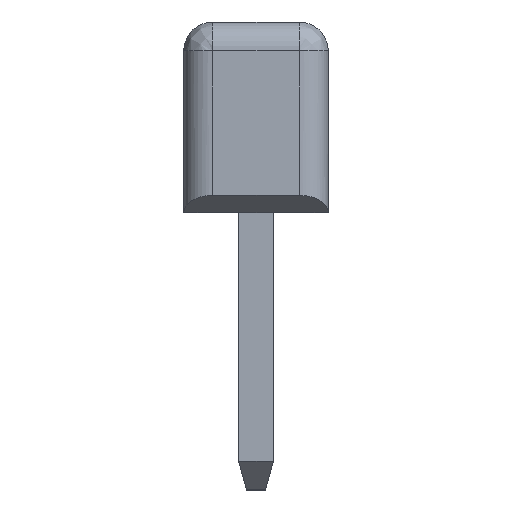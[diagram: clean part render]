
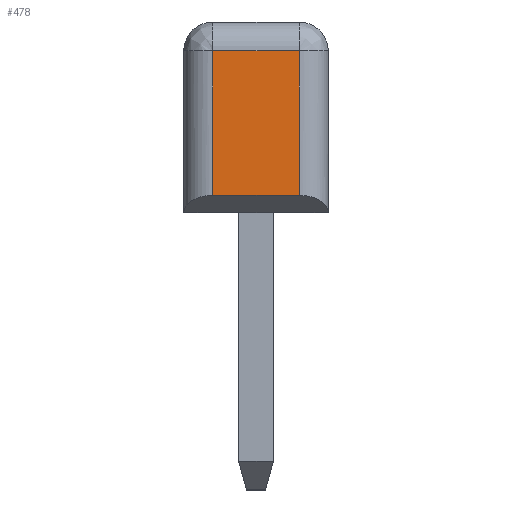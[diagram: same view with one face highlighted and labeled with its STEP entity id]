
A CAD part, left-side view. The second image highlights one B-rep face of the part: STEP entity #478.
In plain terms, the highlighted planar face has unit normal (-1, 0, 0).
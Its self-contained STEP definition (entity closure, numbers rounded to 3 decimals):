
#382 = VECTOR ( 'NONE', #979, 1000. ) ;
#401 = PLANE ( 'NONE',  #3752 ) ;
#478 = ADVANCED_FACE ( 'NONE', ( #1913 ), #401, .T. ) ;
#651 = EDGE_CURVE ( 'NONE', #3915, #1533, #7126, .T. ) ;
#655 = CARTESIAN_POINT ( 'NONE',  ( 0., 2., 7.6 ) ) ;
#656 = CARTESIAN_POINT ( 'NONE',  ( 0., 0., 5.1 ) ) ;
#979 = DIRECTION ( 'NONE',  ( 0., 0., 1. ) ) ;
#1533 = VERTEX_POINT ( 'NONE', #2028 ) ;
#1577 = EDGE_CURVE ( 'NONE', #1757, #7489, #2898, .T. ) ;
#1631 = LINE ( 'NONE', #2835, #5570 ) ;
#1757 = VERTEX_POINT ( 'NONE', #1903 ) ;
#1903 = CARTESIAN_POINT ( 'NONE',  ( 0., 2., 5.1 ) ) ;
#1913 = FACE_OUTER_BOUND ( 'NONE', #3880, .T. ) ;
#2028 = CARTESIAN_POINT ( 'NONE',  ( 0., 0.5, 7.6 ) ) ;
#2540 = EDGE_CURVE ( 'NONE', #1533, #7489, #1631, .T. ) ;
#2835 = CARTESIAN_POINT ( 'NONE',  ( 0., 0., 7.6 ) ) ;
#2898 = LINE ( 'NONE', #5112, #382 ) ;
#3055 = DIRECTION ( 'NONE',  ( 0., -1., 0. ) ) ;
#3151 = ORIENTED_EDGE ( 'NONE', *, *, #6787, .T. ) ;
#3472 = ORIENTED_EDGE ( 'NONE', *, *, #1577, .F. ) ;
#3652 = ORIENTED_EDGE ( 'NONE', *, *, #2540, .T. ) ;
#3752 = AXIS2_PLACEMENT_3D ( 'NONE', #3973, #6708, #6134 ) ;
#3880 = EDGE_LOOP ( 'NONE', ( #3151, #7542, #3652, #3472 ) ) ;
#3915 = VERTEX_POINT ( 'NONE', #4629 ) ;
#3973 = CARTESIAN_POINT ( 'NONE',  ( 0., 0., 4.8 ) ) ;
#4159 = CARTESIAN_POINT ( 'NONE',  ( 0., 0.5, 4.8 ) ) ;
#4629 = CARTESIAN_POINT ( 'NONE',  ( 0., 0.5, 5.1 ) ) ;
#5112 = CARTESIAN_POINT ( 'NONE',  ( 0., 2., 4.8 ) ) ;
#5570 = VECTOR ( 'NONE', #6856, 1000. ) ;
#5834 = VECTOR ( 'NONE', #3055, 1000. ) ;
#6126 = VECTOR ( 'NONE', #6537, 1000. ) ;
#6134 = DIRECTION ( 'NONE',  ( 0., -1., 0. ) ) ;
#6537 = DIRECTION ( 'NONE',  ( 0., 0., 1. ) ) ;
#6708 = DIRECTION ( 'NONE',  ( -1., 0., 0. ) ) ;
#6787 = EDGE_CURVE ( 'NONE', #1757, #3915, #7340, .T. ) ;
#6856 = DIRECTION ( 'NONE',  ( 0., 1., 0. ) ) ;
#7126 = LINE ( 'NONE', #4159, #6126 ) ;
#7340 = LINE ( 'NONE', #656, #5834 ) ;
#7489 = VERTEX_POINT ( 'NONE', #655 ) ;
#7542 = ORIENTED_EDGE ( 'NONE', *, *, #651, .T. ) ;
